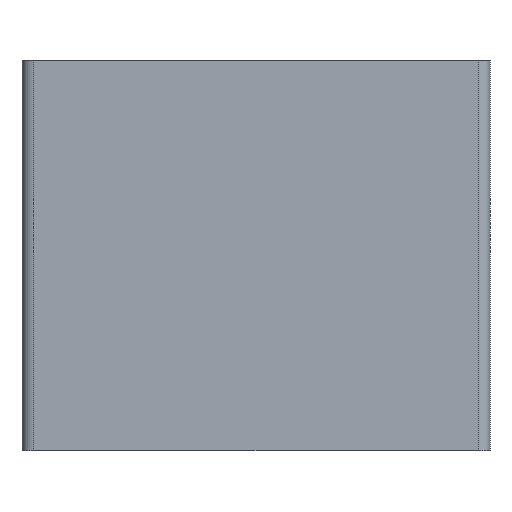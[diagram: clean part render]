
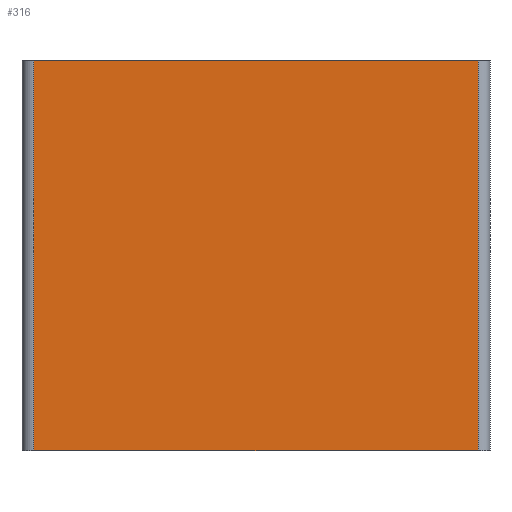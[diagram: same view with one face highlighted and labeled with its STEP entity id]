
A CAD part, left-side view. The second image highlights one B-rep face of the part: STEP entity #316.
In plain terms, the highlighted planar face has unit normal (-1, 0, 0).
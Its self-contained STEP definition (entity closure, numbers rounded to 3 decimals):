
#316=ADVANCED_FACE('',(#628),#629,.F.);
#628=FACE_OUTER_BOUND('',#931,.T.);
#629=PLANE('',#932);
#931=EDGE_LOOP('',(#1895,#1896,#1897,#1898));
#932=AXIS2_PLACEMENT_3D('',#1899,#1900,#1901);
#1895=ORIENTED_EDGE('',*,*,#1959,.T.);
#1896=ORIENTED_EDGE('',*,*,#2215,.F.);
#1897=ORIENTED_EDGE('',*,*,#2203,.F.);
#1898=ORIENTED_EDGE('',*,*,#2217,.T.);
#1899=CARTESIAN_POINT('',(0.,58.5,50.0));
#1900=DIRECTION('',(1.0,0.0,0.0));
#1901=DIRECTION('',(0.0,0.0,-1.0));
#1959=EDGE_CURVE('',#2402,#2400,#2403,.T.);
#2203=EDGE_CURVE('',#2776,#2778,#2779,.T.);
#2215=EDGE_CURVE('',#2778,#2400,#2793,.T.);
#2217=EDGE_CURVE('',#2776,#2402,#2795,.T.);
#2400=VERTEX_POINT('',#3006);
#2402=VERTEX_POINT('',#3008);
#2403=LINE('',#3009,#3010);
#2776=VERTEX_POINT('',#3515);
#2778=VERTEX_POINT('',#3517);
#2779=LINE('',#3518,#3519);
#2793=LINE('',#3538,#3539);
#2795=LINE('',#3541,#3542);
#3006=CARTESIAN_POINT('',(0.,1.5,0.0));
#3008=CARTESIAN_POINT('',(0.,58.5,0.0));
#3009=CARTESIAN_POINT('',(0.,58.5,0.0));
#3010=VECTOR('',#3748,1.0);
#3515=CARTESIAN_POINT('',(0.,58.5,50.0));
#3517=CARTESIAN_POINT('',(0.,1.5,50.0));
#3518=CARTESIAN_POINT('',(0.,58.5,50.0));
#3519=VECTOR('',#4076,1.0);
#3538=CARTESIAN_POINT('',(0.,1.5,50.0));
#3539=VECTOR('',#4091,1.0);
#3541=CARTESIAN_POINT('',(0.,58.5,50.0));
#3542=VECTOR('',#4092,1.0);
#3748=DIRECTION('',(0.0,-1.0,0.0));
#4076=DIRECTION('',(0.0,-1.0,0.0));
#4091=DIRECTION('',(0.0,0.0,-1.0));
#4092=DIRECTION('',(0.0,0.0,-1.0));
